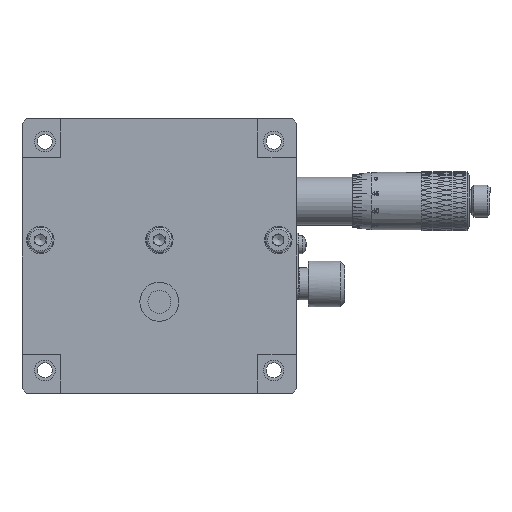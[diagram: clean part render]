
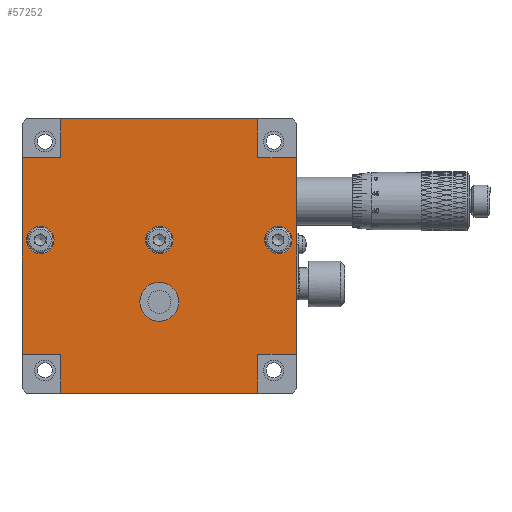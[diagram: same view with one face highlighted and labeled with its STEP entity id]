
A CAD part, front view. The second image highlights one B-rep face of the part: STEP entity #57252.
In plain terms, the highlighted planar face has unit normal (0, -1, 0).
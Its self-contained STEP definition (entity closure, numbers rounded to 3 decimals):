
#173 = DIRECTION ( 'NONE',  ( -1., 0., 0. ) ) ;
#1100 = EDGE_CURVE ( 'NONE', #10531, #23880, #34211, .T. ) ;
#1885 = CARTESIAN_POINT ( 'NONE',  ( 39.858, 28.358, -30.899 ) ) ;
#3007 = ORIENTED_EDGE ( 'NONE', *, *, #38617, .T. ) ;
#3375 = DIRECTION ( 'NONE',  ( 0., -1., 0. ) ) ;
#3959 = VECTOR ( 'NONE', #29016, 1000. ) ;
#4584 = EDGE_CURVE ( 'NONE', #30838, #28350, #9785, .T. ) ;
#4712 = VECTOR ( 'NONE', #54064, 1000. ) ;
#4785 = VERTEX_POINT ( 'NONE', #16753 ) ;
#5201 = EDGE_LOOP ( 'NONE', ( #55562 ) ) ;
#5581 = AXIS2_PLACEMENT_3D ( 'NONE', #1885, #12180, #48241 ) ;
#5888 = LINE ( 'NONE', #6207, #38485 ) ;
#6207 = CARTESIAN_POINT ( 'NONE',  ( 9.858, 28.358, -50.899 ) ) ;
#6773 = VERTEX_POINT ( 'NONE', #36191 ) ;
#7247 = VERTEX_POINT ( 'NONE', #50947 ) ;
#7526 = EDGE_CURVE ( 'NONE', #13045, #6773, #5888, .T. ) ;
#7553 = CIRCLE ( 'NONE', #60485, 3. ) ;
#8995 = CARTESIAN_POINT ( 'NONE',  ( 39.858, 28.358, -17.399 ) ) ;
#9785 = LINE ( 'NONE', #49864, #65258 ) ;
#9883 = CARTESIAN_POINT ( 'NONE',  ( 18.358, 28.358, 9.101 ) ) ;
#9999 = FACE_BOUND ( 'NONE', #5201, .T. ) ;
#10531 = VERTEX_POINT ( 'NONE', #37803 ) ;
#12180 = DIRECTION ( 'NONE',  ( 0., -1., 0. ) ) ;
#12617 = CARTESIAN_POINT ( 'NONE',  ( 65.858, 28.358, -17.399 ) ) ;
#13045 = VERTEX_POINT ( 'NONE', #54927 ) ;
#13138 = CARTESIAN_POINT ( 'NONE',  ( 16.858, 28.358, -17.399 ) ) ;
#14638 = FACE_BOUND ( 'NONE', #49959, .T. ) ;
#14802 = LINE ( 'NONE', #39630, #30784 ) ;
#15120 = EDGE_CURVE ( 'NONE', #27697, #27697, #26872, .T. ) ;
#15125 = CARTESIAN_POINT ( 'NONE',  ( 18.358, 28.358, 0.601 ) ) ;
#15296 = CIRCLE ( 'NONE', #53340, 3. ) ;
#16067 = DIRECTION ( 'NONE',  ( 1., 0., 0. ) ) ;
#16318 = ORIENTED_EDGE ( 'NONE', *, *, #60399, .F. ) ;
#16361 = VERTEX_POINT ( 'NONE', #18484 ) ;
#16605 = VERTEX_POINT ( 'NONE', #42707 ) ;
#16753 = CARTESIAN_POINT ( 'NONE',  ( 61.358, 28.358, 0.601 ) ) ;
#17180 = EDGE_CURVE ( 'NONE', #4785, #23880, #34621, .T. ) ;
#18435 = VERTEX_POINT ( 'NONE', #13138 ) ;
#18484 = CARTESIAN_POINT ( 'NONE',  ( 61.358, 28.358, -50.899 ) ) ;
#18598 = CIRCLE ( 'NONE', #50310, 3. ) ;
#19176 = DIRECTION ( 'NONE',  ( 0., 0., -1. ) ) ;
#19226 = EDGE_CURVE ( 'NONE', #18435, #18435, #7553, .T. ) ;
#19720 = ORIENTED_EDGE ( 'NONE', *, *, #43746, .F. ) ;
#19821 = ORIENTED_EDGE ( 'NONE', *, *, #7526, .T. ) ;
#21130 = ORIENTED_EDGE ( 'NONE', *, *, #1100, .T. ) ;
#21645 = VERTEX_POINT ( 'NONE', #41831 ) ;
#22446 = EDGE_LOOP ( 'NONE', ( #3007, #31324, #23704, #21130, #60386, #19720, #41005, #36513, #16318, #19821, #63187, #27141 ) ) ;
#23594 = DIRECTION ( 'NONE',  ( 1., 0., 0. ) ) ;
#23704 = ORIENTED_EDGE ( 'NONE', *, *, #31405, .F. ) ;
#23880 = VERTEX_POINT ( 'NONE', #51862 ) ;
#23911 = DIRECTION ( 'NONE',  ( 1., 0., 0. ) ) ;
#23922 = CARTESIAN_POINT ( 'NONE',  ( 39.858, 28.358, -20.899 ) ) ;
#24082 = DIRECTION ( 'NONE',  ( -1., 0., 0. ) ) ;
#25093 = ORIENTED_EDGE ( 'NONE', *, *, #15120, .F. ) ;
#25452 = CARTESIAN_POINT ( 'NONE',  ( 9.858, 28.358, 0.601 ) ) ;
#26249 = EDGE_CURVE ( 'NONE', #7247, #60648, #54403, .T. ) ;
#26872 = CIRCLE ( 'NONE', #5581, 4.25 ) ;
#27141 = ORIENTED_EDGE ( 'NONE', *, *, #26249, .F. ) ;
#27697 = VERTEX_POINT ( 'NONE', #31710 ) ;
#28350 = VERTEX_POINT ( 'NONE', #9883 ) ;
#28699 = LINE ( 'NONE', #63850, #40245 ) ;
#29016 = DIRECTION ( 'NONE',  ( 0., 0., 1. ) ) ;
#29908 = DIRECTION ( 'NONE',  ( 1., 0., 0. ) ) ;
#30108 = EDGE_CURVE ( 'NONE', #21645, #21645, #15296, .T. ) ;
#30141 = VECTOR ( 'NONE', #60032, 1000. ) ;
#30353 = CARTESIAN_POINT ( 'NONE',  ( 61.358, 28.358, 9.101 ) ) ;
#30784 = VECTOR ( 'NONE', #24082, 1000. ) ;
#30838 = VERTEX_POINT ( 'NONE', #30353 ) ;
#30859 = AXIS2_PLACEMENT_3D ( 'NONE', #23922, #3375, #23594 ) ;
#31034 = VECTOR ( 'NONE', #42492, 1000. ) ;
#31324 = ORIENTED_EDGE ( 'NONE', *, *, #38291, .F. ) ;
#31389 = ORIENTED_EDGE ( 'NONE', *, *, #30108, .T. ) ;
#31405 = EDGE_CURVE ( 'NONE', #10531, #50754, #35173, .T. ) ;
#31406 = EDGE_LOOP ( 'NONE', ( #25093 ) ) ;
#31710 = CARTESIAN_POINT ( 'NONE',  ( 44.108, 28.358, -30.899 ) ) ;
#32684 = EDGE_CURVE ( 'NONE', #16605, #16605, #18598, .T. ) ;
#34211 = LINE ( 'NONE', #54405, #30141 ) ;
#34571 = DIRECTION ( 'NONE',  ( 0., 1., 0. ) ) ;
#34621 = LINE ( 'NONE', #36570, #48646 ) ;
#35173 = LINE ( 'NONE', #54715, #4712 ) ;
#36179 = ORIENTED_EDGE ( 'NONE', *, *, #19226, .T. ) ;
#36191 = CARTESIAN_POINT ( 'NONE',  ( 9.858, 28.358, -42.399 ) ) ;
#36513 = ORIENTED_EDGE ( 'NONE', *, *, #46427, .F. ) ;
#36570 = CARTESIAN_POINT ( 'NONE',  ( 69.858, 28.358, 0.601 ) ) ;
#37207 = LINE ( 'NONE', #57112, #31034 ) ;
#37803 = CARTESIAN_POINT ( 'NONE',  ( 69.858, 28.358, -42.399 ) ) ;
#38204 = VERTEX_POINT ( 'NONE', #15125 ) ;
#38291 = EDGE_CURVE ( 'NONE', #50754, #16361, #59912, .T. ) ;
#38485 = VECTOR ( 'NONE', #56904, 1000. ) ;
#38617 = EDGE_CURVE ( 'NONE', #7247, #16361, #28699, .T. ) ;
#39630 = CARTESIAN_POINT ( 'NONE',  ( 9.858, 28.358, -42.399 ) ) ;
#40245 = VECTOR ( 'NONE', #64494, 1000. ) ;
#40264 = LINE ( 'NONE', #45557, #3959 ) ;
#41005 = ORIENTED_EDGE ( 'NONE', *, *, #4584, .T. ) ;
#41831 = CARTESIAN_POINT ( 'NONE',  ( 42.858, 28.358, -17.399 ) ) ;
#42492 = DIRECTION ( 'NONE',  ( 0., 0., -1. ) ) ;
#42707 = CARTESIAN_POINT ( 'NONE',  ( 68.858, 28.358, -17.399 ) ) ;
#43060 = DIRECTION ( 'NONE',  ( 1., 0., 0. ) ) ;
#43746 = EDGE_CURVE ( 'NONE', #30838, #4785, #37207, .T. ) ;
#43767 = DIRECTION ( 'NONE',  ( 0., 1., 0. ) ) ;
#44812 = CARTESIAN_POINT ( 'NONE',  ( 13.858, 28.358, -17.399 ) ) ;
#45557 = CARTESIAN_POINT ( 'NONE',  ( 18.358, 28.358, 9.101 ) ) ;
#45662 = DIRECTION ( 'NONE',  ( 1., 0., 0. ) ) ;
#46427 = EDGE_CURVE ( 'NONE', #38204, #28350, #40264, .T. ) ;
#48241 = DIRECTION ( 'NONE',  ( 1., 0., 0. ) ) ;
#48371 = DIRECTION ( 'NONE',  ( 0., 1., 0. ) ) ;
#48544 = CARTESIAN_POINT ( 'NONE',  ( 61.358, 28.358, -42.399 ) ) ;
#48646 = VECTOR ( 'NONE', #16067, 1000. ) ;
#48763 = FACE_BOUND ( 'NONE', #31406, .T. ) ;
#49418 = CARTESIAN_POINT ( 'NONE',  ( 18.358, 28.358, -50.899 ) ) ;
#49864 = CARTESIAN_POINT ( 'NONE',  ( 9.858, 28.358, 9.101 ) ) ;
#49959 = EDGE_LOOP ( 'NONE', ( #36179 ) ) ;
#50073 = FACE_OUTER_BOUND ( 'NONE', #22446, .T. ) ;
#50310 = AXIS2_PLACEMENT_3D ( 'NONE', #12617, #48371, #43060 ) ;
#50688 = VECTOR ( 'NONE', #64697, 1000. ) ;
#50754 = VERTEX_POINT ( 'NONE', #48544 ) ;
#50947 = CARTESIAN_POINT ( 'NONE',  ( 18.358, 28.358, -50.899 ) ) ;
#50966 = LINE ( 'NONE', #25452, #58535 ) ;
#51862 = CARTESIAN_POINT ( 'NONE',  ( 69.858, 28.358, 0.601 ) ) ;
#52933 = VECTOR ( 'NONE', #19176, 1000. ) ;
#53340 = AXIS2_PLACEMENT_3D ( 'NONE', #8995, #43767, #23911 ) ;
#54064 = DIRECTION ( 'NONE',  ( -1., 0., 0. ) ) ;
#54403 = LINE ( 'NONE', #49418, #50688 ) ;
#54405 = CARTESIAN_POINT ( 'NONE',  ( 69.858, 28.358, -50.899 ) ) ;
#54715 = CARTESIAN_POINT ( 'NONE',  ( 69.858, 28.358, -42.399 ) ) ;
#54718 = PLANE ( 'NONE',  #30859 ) ;
#54927 = CARTESIAN_POINT ( 'NONE',  ( 9.858, 28.358, 0.601 ) ) ;
#55562 = ORIENTED_EDGE ( 'NONE', *, *, #32684, .T. ) ;
#56370 = EDGE_CURVE ( 'NONE', #60648, #6773, #14802, .T. ) ;
#56904 = DIRECTION ( 'NONE',  ( 0., 0., -1. ) ) ;
#57112 = CARTESIAN_POINT ( 'NONE',  ( 61.358, 28.358, 9.101 ) ) ;
#57252 = ADVANCED_FACE ( 'NONE', ( #48763, #14638, #65014, #9999, #50073 ), #54718, .T. ) ;
#58535 = VECTOR ( 'NONE', #45662, 1000. ) ;
#59912 = LINE ( 'NONE', #65564, #52933 ) ;
#60032 = DIRECTION ( 'NONE',  ( 0., 0., 1. ) ) ;
#60386 = ORIENTED_EDGE ( 'NONE', *, *, #17180, .F. ) ;
#60399 = EDGE_CURVE ( 'NONE', #13045, #38204, #50966, .T. ) ;
#60485 = AXIS2_PLACEMENT_3D ( 'NONE', #44812, #34571, #29908 ) ;
#60648 = VERTEX_POINT ( 'NONE', #64834 ) ;
#62360 = EDGE_LOOP ( 'NONE', ( #31389 ) ) ;
#63187 = ORIENTED_EDGE ( 'NONE', *, *, #56370, .F. ) ;
#63850 = CARTESIAN_POINT ( 'NONE',  ( 9.858, 28.358, -50.899 ) ) ;
#64494 = DIRECTION ( 'NONE',  ( 1., 0., 0. ) ) ;
#64697 = DIRECTION ( 'NONE',  ( 0., 0., 1. ) ) ;
#64834 = CARTESIAN_POINT ( 'NONE',  ( 18.358, 28.358, -42.399 ) ) ;
#65014 = FACE_BOUND ( 'NONE', #62360, .T. ) ;
#65258 = VECTOR ( 'NONE', #173, 1000. ) ;
#65564 = CARTESIAN_POINT ( 'NONE',  ( 61.358, 28.358, -50.899 ) ) ;
